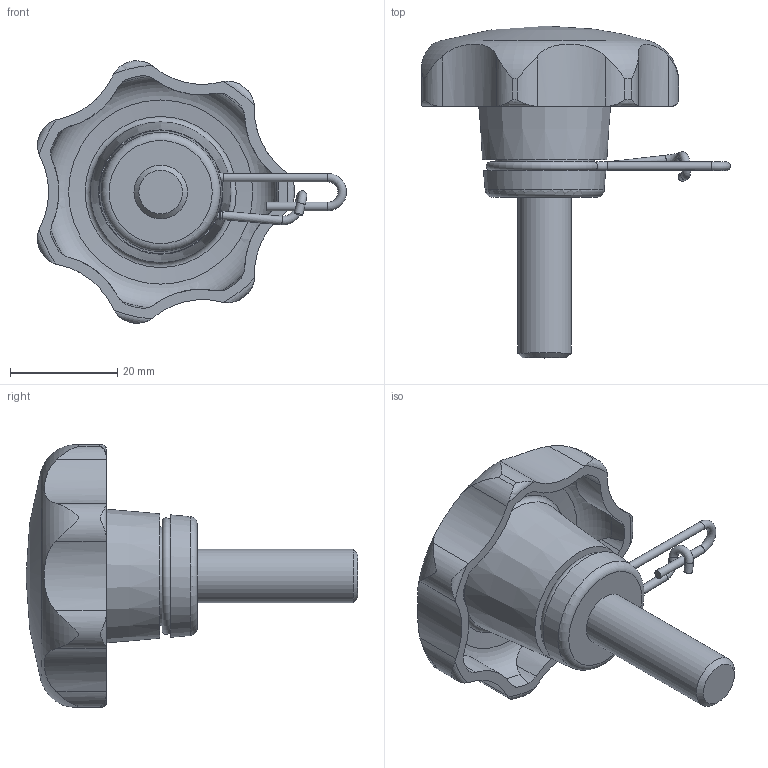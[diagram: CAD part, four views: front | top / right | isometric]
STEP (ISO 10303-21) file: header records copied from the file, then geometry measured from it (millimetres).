
FILE_DESCRIPTION( ( 'STEP AP203' ), '1' );
FILE_NAME( 'C:/Temp/Ganter_Step_05_03_2020/data/2_2/gn_6336_13/gn_6336_13_2/Star knob GN 6336.13-50-M10-30-A.stp', '2020-03-05T12:11:16', ( 'License CC BY-ND 4.0' ), ( 'CADENAS' ), ' ', 'PARTsolutions', ' ' );
FILE_SCHEMA( ( 'CONFIG_CONTROL_DESIGN' ) );
Length unit declared in the file: millimetre
Products named in the file (1): _Star knob GN 6336.13-50-M10-30-A
Bounding box: 57.7 x 62 x 49 mm (x, y, z)
Volume: 24932.4 mm3; surface area: 9278.2 mm2
Topology: 1 solids, 1 shells, 93 faces, 249 edges, 161 vertices
Faces by surface type: cylinder 53, torus 18, cone 11, plane 10, sphere 1
Full cylindrical faces by diameter (mm): 1.6 x6, 10 x1, 18.5 x1
Entity records: 3564 total; most frequent: CARTESIAN_POINT 1365, DIRECTION 444, ORIENTED_EDGE 438, EDGE_CURVE 219, AXIS2_PLACEMENT_3D 200, VERTEX_POINT 157, EDGE_LOOP 119, FACE_OUTER_BOUND 111
